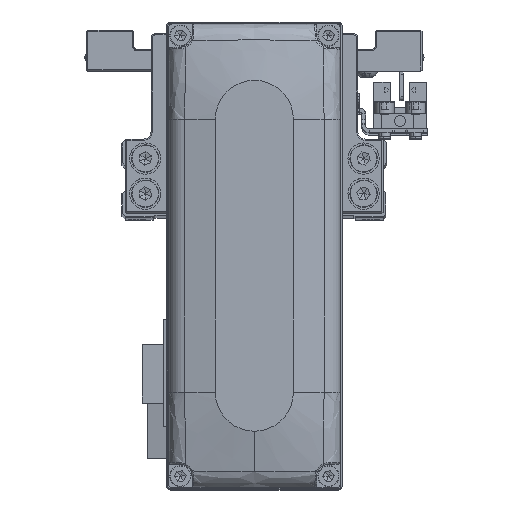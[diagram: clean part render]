
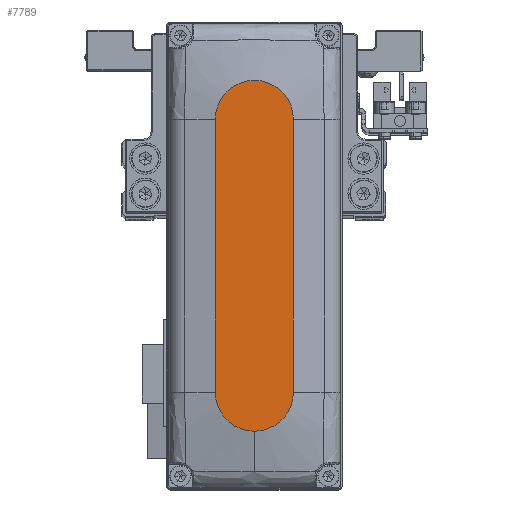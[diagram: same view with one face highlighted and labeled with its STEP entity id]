
A CAD part, top view. The second image highlights one B-rep face of the part: STEP entity #7789.
In plain terms, the highlighted planar face has unit normal (0, 0, 1).
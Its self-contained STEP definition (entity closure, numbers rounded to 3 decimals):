
#183 = VERTEX_POINT ( 'NONE', #10429 ) ;
#651 = FACE_OUTER_BOUND ( 'NONE', #33264, .T. ) ;
#1634 = VERTEX_POINT ( 'NONE', #8468 ) ;
#1921 = LINE ( 'NONE', #13885, #9053 ) ;
#2617 = VERTEX_POINT ( 'NONE', #35639 ) ;
#2708 = CARTESIAN_POINT ( 'NONE',  ( 35., 10., 28. ) ) ;
#3373 = EDGE_CURVE ( 'NONE', #8893, #5193, #26358, .T. ) ;
#4433 = EDGE_CURVE ( 'NONE', #183, #1634, #27338, .T. ) ;
#4838 = DIRECTION ( 'NONE',  ( 1., 0., 0. ) ) ;
#5193 = VERTEX_POINT ( 'NONE', #2708 ) ;
#5266 = AXIS2_PLACEMENT_3D ( 'NONE', #19737, #31708, #4838 ) ;
#5629 = DIRECTION ( 'NONE',  ( 1., 0., 0. ) ) ;
#7683 = DIRECTION ( 'NONE',  ( 1., 0., 0. ) ) ;
#7789 = ADVANCED_FACE ( 'NONE', ( #651 ), #12614, .T. ) ;
#8468 = CARTESIAN_POINT ( 'NONE',  ( -35., -10., 28. ) ) ;
#8893 = VERTEX_POINT ( 'NONE', #25661 ) ;
#9053 = VECTOR ( 'NONE', #25860, 1000. ) ;
#9290 = DIRECTION ( 'NONE',  ( 0., 0., 1. ) ) ;
#9431 = AXIS2_PLACEMENT_3D ( 'NONE', #22595, #34565, #7683 ) ;
#9682 = DIRECTION ( 'NONE',  ( 1., 0., 0. ) ) ;
#10417 = AXIS2_PLACEMENT_3D ( 'NONE', #36161, #9290, #21249 ) ;
#10429 = CARTESIAN_POINT ( 'NONE',  ( -35., 10., 28. ) ) ;
#12225 = VECTOR ( 'NONE', #5629, 1000. ) ;
#12614 = PLANE ( 'NONE',  #12740 ) ;
#12740 = AXIS2_PLACEMENT_3D ( 'NONE', #24583, #36554, #9682 ) ;
#13090 = EDGE_CURVE ( 'NONE', #5193, #183, #1921, .T. ) ;
#13885 = CARTESIAN_POINT ( 'NONE',  ( -35., 10., 28. ) ) ;
#19693 = ORIENTED_EDGE ( 'NONE', *, *, #24072, .T. ) ;
#19737 = CARTESIAN_POINT ( 'NONE',  ( 35., 0., 28. ) ) ;
#20431 = ORIENTED_EDGE ( 'NONE', *, *, #4433, .T. ) ;
#20519 = LINE ( 'NONE', #32502, #12225 ) ;
#21249 = DIRECTION ( 'NONE',  ( 1., 0., 0. ) ) ;
#22164 = CIRCLE ( 'NONE', #5266, 10. ) ;
#22595 = CARTESIAN_POINT ( 'NONE',  ( 35., 0., 28. ) ) ;
#24072 = EDGE_CURVE ( 'NONE', #2617, #8893, #22164, .T. ) ;
#24583 = CARTESIAN_POINT ( 'NONE',  ( 0., 0., 28. ) ) ;
#25544 = EDGE_CURVE ( 'NONE', #1634, #2617, #20519, .T. ) ;
#25661 = CARTESIAN_POINT ( 'NONE',  ( 45., 0., 28. ) ) ;
#25860 = DIRECTION ( 'NONE',  ( -1., 0., 0. ) ) ;
#26358 = CIRCLE ( 'NONE', #9431, 10. ) ;
#27338 = CIRCLE ( 'NONE', #10417, 10. ) ;
#30941 = ORIENTED_EDGE ( 'NONE', *, *, #3373, .T. ) ;
#31708 = DIRECTION ( 'NONE',  ( 0., 0., 1. ) ) ;
#32502 = CARTESIAN_POINT ( 'NONE',  ( -35., -10., 28. ) ) ;
#33264 = EDGE_LOOP ( 'NONE', ( #34351, #20431, #37974, #19693, #30941 ) ) ;
#34351 = ORIENTED_EDGE ( 'NONE', *, *, #13090, .T. ) ;
#34565 = DIRECTION ( 'NONE',  ( 0., 0., 1. ) ) ;
#35639 = CARTESIAN_POINT ( 'NONE',  ( 35., -10., 28. ) ) ;
#36161 = CARTESIAN_POINT ( 'NONE',  ( -35., 0., 28. ) ) ;
#36554 = DIRECTION ( 'NONE',  ( 0., 0., 1. ) ) ;
#37974 = ORIENTED_EDGE ( 'NONE', *, *, #25544, .T. ) ;
